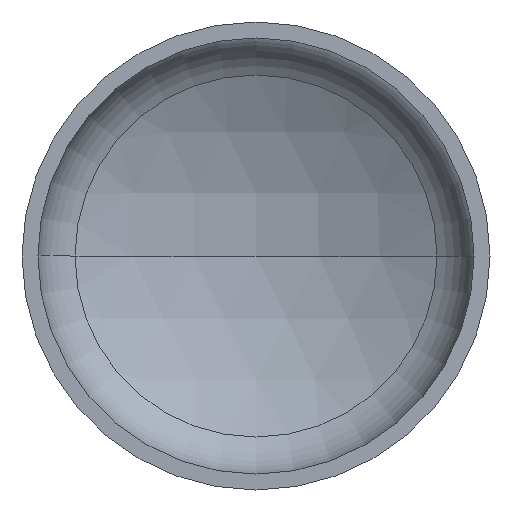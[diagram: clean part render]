
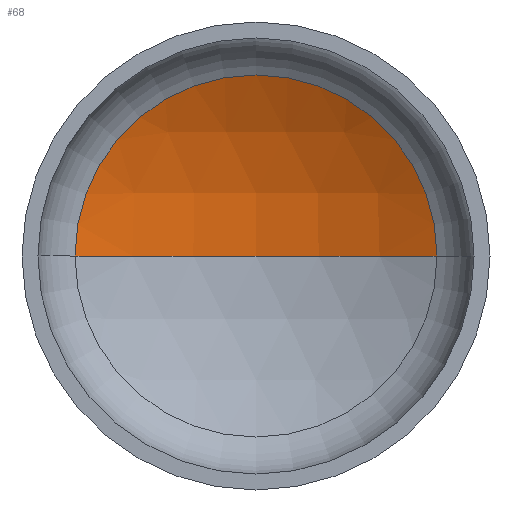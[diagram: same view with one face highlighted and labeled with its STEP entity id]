
A CAD part, front view. The second image highlights one B-rep face of the part: STEP entity #68.
In plain terms, the highlighted spherical face has radius 2400 mm.
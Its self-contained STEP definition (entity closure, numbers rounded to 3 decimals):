
#1 = AXIS2_PLACEMENT_3D ( 'NONE', #333, #5, #270 ) ;
#2 = ORIENTED_EDGE ( 'NONE', *, *, #358, .F. ) ;
#5 = DIRECTION ( 'NONE',  ( 0., 0., -1. ) ) ;
#6 = AXIS2_PLACEMENT_3D ( 'NONE', #105, #109, #77 ) ;
#10 = AXIS2_PLACEMENT_3D ( 'NONE', #147, #321, #162 ) ;
#31 = FACE_OUTER_BOUND ( 'NONE', #35, .T. ) ;
#35 = EDGE_LOOP ( 'NONE', ( #2, #75, #326 ) ) ;
#38 = AXIS2_PLACEMENT_3D ( 'NONE', #304, #348, #300 ) ;
#68 = ADVANCED_FACE ( 'NONE', ( #31 ), #172, .F. ) ;
#75 = ORIENTED_EDGE ( 'NONE', *, *, #387, .T. ) ;
#77 = DIRECTION ( 'NONE',  ( 1., 0., 0. ) ) ;
#105 = CARTESIAN_POINT ( 'NONE',  ( 0., -1623.163, 0. ) ) ;
#109 = DIRECTION ( 'NONE',  ( 0., 0., 1. ) ) ;
#131 = VERTEX_POINT ( 'NONE', #283 ) ;
#147 = CARTESIAN_POINT ( 'NONE',  ( 0., 477.657, 0. ) ) ;
#162 = DIRECTION ( 'NONE',  ( 1., 0., 0. ) ) ;
#172 = SPHERICAL_SURFACE ( 'NONE', #38, 2400. ) ;
#173 = VERTEX_POINT ( 'NONE', #199 ) ;
#185 = CIRCLE ( 'NONE', #6, 2400. ) ;
#198 = CARTESIAN_POINT ( 'NONE',  ( -1160.412, 477.657, 0. ) ) ;
#199 = CARTESIAN_POINT ( 'NONE',  ( 0., 776.837, 0. ) ) ;
#244 = VERTEX_POINT ( 'NONE', #198 ) ;
#258 = CIRCLE ( 'NONE', #10, 1160.412 ) ;
#270 = DIRECTION ( 'NONE',  ( -1., 0., 0. ) ) ;
#283 = CARTESIAN_POINT ( 'NONE',  ( 1160.412, 477.657, 0. ) ) ;
#300 = DIRECTION ( 'NONE',  ( -1., 0., 0. ) ) ;
#304 = CARTESIAN_POINT ( 'NONE',  ( 0., -1623.163, 0. ) ) ;
#311 = CIRCLE ( 'NONE', #1, 2400. ) ;
#321 = DIRECTION ( 'NONE',  ( 0., -1., 0. ) ) ;
#326 = ORIENTED_EDGE ( 'NONE', *, *, #336, .T. ) ;
#333 = CARTESIAN_POINT ( 'NONE',  ( 0., -1623.163, 0. ) ) ;
#336 = EDGE_CURVE ( 'NONE', #131, #244, #258, .T. ) ;
#348 = DIRECTION ( 'NONE',  ( 0., 0., -1. ) ) ;
#358 = EDGE_CURVE ( 'NONE', #173, #244, #185, .T. ) ;
#387 = EDGE_CURVE ( 'NONE', #173, #131, #311, .T. ) ;
